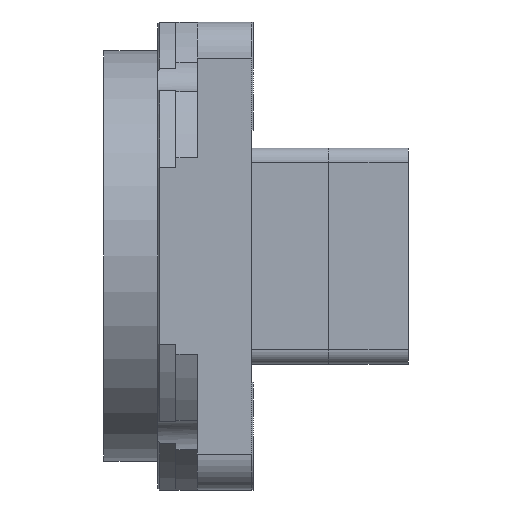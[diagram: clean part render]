
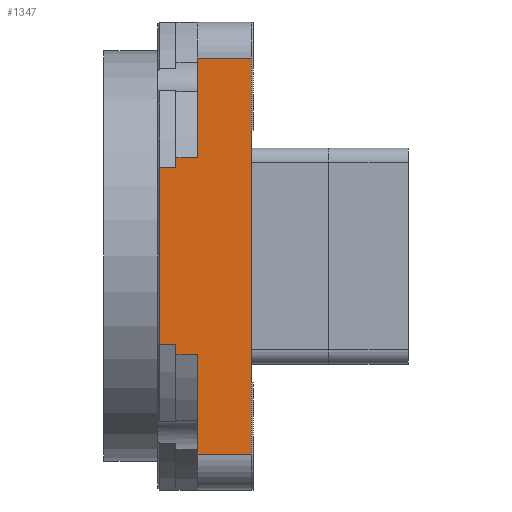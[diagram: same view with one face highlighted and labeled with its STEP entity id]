
A CAD part, left-side view. The second image highlights one B-rep face of the part: STEP entity #1347.
In plain terms, the highlighted planar face has unit normal (-1, 0, 0).
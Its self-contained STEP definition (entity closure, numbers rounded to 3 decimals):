
#13 = DIRECTION ( 'NONE',  ( 0., 1., 0. ) ) ;
#64 = ORIENTED_EDGE ( 'NONE', *, *, #3310, .F. ) ;
#222 = CARTESIAN_POINT ( 'NONE',  ( -65., 15., -55. ) ) ;
#322 = CARTESIAN_POINT ( 'NONE',  ( -65., 0., -55. ) ) ;
#460 = ORIENTED_EDGE ( 'NONE', *, *, #3645, .F. ) ;
#639 = CARTESIAN_POINT ( 'NONE',  ( -65., 21., 24.602 ) ) ;
#817 = DIRECTION ( 'NONE',  ( 0., 0., -1. ) ) ;
#917 = CARTESIAN_POINT ( 'NONE',  ( -65., 15., -55. ) ) ;
#1073 = CARTESIAN_POINT ( 'NONE',  ( -65., 21., -24.602 ) ) ;
#1109 = CARTESIAN_POINT ( 'NONE',  ( -65., 15., -55. ) ) ;
#1347 = ADVANCED_FACE ( 'NONE', ( #3621 ), #7808, .F. ) ;
#1399 = CARTESIAN_POINT ( 'NONE',  ( -65., 0., 55. ) ) ;
#1433 = VECTOR ( 'NONE', #5056, 1000. ) ;
#1495 = CARTESIAN_POINT ( 'NONE',  ( -65., 21., -55. ) ) ;
#1554 = LINE ( 'NONE', #1495, #5490 ) ;
#1595 = DIRECTION ( 'NONE',  ( 0., -1., 0. ) ) ;
#1599 = DIRECTION ( 'NONE',  ( 0., -1., 0. ) ) ;
#1608 = VECTOR ( 'NONE', #817, 1000. ) ;
#1690 = ORIENTED_EDGE ( 'NONE', *, *, #8685, .F. ) ;
#2034 = EDGE_CURVE ( 'NONE', #8337, #6546, #6655, .T. ) ;
#2048 = EDGE_CURVE ( 'NONE', #8536, #7189, #5816, .T. ) ;
#2397 = LINE ( 'NONE', #6736, #7103 ) ;
#2657 = VECTOR ( 'NONE', #7953, 1000. ) ;
#2700 = EDGE_CURVE ( 'NONE', #7189, #9798, #6309, .T. ) ;
#2712 = CARTESIAN_POINT ( 'NONE',  ( -65., 21., -24.602 ) ) ;
#2756 = ORIENTED_EDGE ( 'NONE', *, *, #3332, .T. ) ;
#2916 = DIRECTION ( 'NONE',  ( 0., 0., 1. ) ) ;
#2984 = VECTOR ( 'NONE', #7832, 1000. ) ;
#3281 = LINE ( 'NONE', #10819, #1433 ) ;
#3310 = EDGE_CURVE ( 'NONE', #8544, #9798, #3281, .T. ) ;
#3332 = EDGE_CURVE ( 'NONE', #7596, #10529, #2397, .T. ) ;
#3555 = LINE ( 'NONE', #1109, #9360 ) ;
#3621 = FACE_OUTER_BOUND ( 'NONE', #6445, .T. ) ;
#3622 = EDGE_CURVE ( 'NONE', #6103, #5869, #4661, .T. ) ;
#3645 = EDGE_CURVE ( 'NONE', #7596, #9706, #1554, .T. ) ;
#3646 = CARTESIAN_POINT ( 'NONE',  ( -65., 15., -55. ) ) ;
#3991 = VECTOR ( 'NONE', #2916, 1000. ) ;
#4114 = DIRECTION ( 'NONE',  ( 0., -1., 0. ) ) ;
#4144 = CARTESIAN_POINT ( 'NONE',  ( -65., 15., -55. ) ) ;
#4195 = CARTESIAN_POINT ( 'NONE',  ( -65., 25.5, -24.602 ) ) ;
#4240 = CARTESIAN_POINT ( 'NONE',  ( -65., 15., 27.299 ) ) ;
#4255 = DIRECTION ( 'NONE',  ( 0., 1., 0. ) ) ;
#4271 = VERTEX_POINT ( 'NONE', #10400 ) ;
#4334 = ORIENTED_EDGE ( 'NONE', *, *, #2700, .T. ) ;
#4555 = CARTESIAN_POINT ( 'NONE',  ( -65., 26., 27.299 ) ) ;
#4661 = LINE ( 'NONE', #4555, #2657 ) ;
#4943 = LINE ( 'NONE', #3646, #2984 ) ;
#4995 = DIRECTION ( 'NONE',  ( 0., 0., 1. ) ) ;
#5056 = DIRECTION ( 'NONE',  ( 0., -1., 0. ) ) ;
#5216 = EDGE_CURVE ( 'NONE', #8337, #4271, #8441, .T. ) ;
#5234 = CARTESIAN_POINT ( 'NONE',  ( -65., 25.5, 24.602 ) ) ;
#5238 = ORIENTED_EDGE ( 'NONE', *, *, #3622, .F. ) ;
#5444 = EDGE_CURVE ( 'NONE', #9706, #6546, #8501, .T. ) ;
#5490 = VECTOR ( 'NONE', #4995, 1000. ) ;
#5816 = LINE ( 'NONE', #4144, #8359 ) ;
#5869 = VERTEX_POINT ( 'NONE', #4240 ) ;
#6103 = VERTEX_POINT ( 'NONE', #6550 ) ;
#6305 = LINE ( 'NONE', #7025, #7770 ) ;
#6309 = LINE ( 'NONE', #6467, #3991 ) ;
#6420 = ORIENTED_EDGE ( 'NONE', *, *, #8064, .F. ) ;
#6445 = EDGE_LOOP ( 'NONE', ( #4334, #64, #1690, #5238, #6420, #7086, #9219, #8423, #460, #2756, #10371, #8879 ) ) ;
#6467 = CARTESIAN_POINT ( 'NONE',  ( -65., 0., -55. ) ) ;
#6546 = VERTEX_POINT ( 'NONE', #4195 ) ;
#6550 = CARTESIAN_POINT ( 'NONE',  ( -65., 21., 27.299 ) ) ;
#6655 = LINE ( 'NONE', #7542, #1608 ) ;
#6736 = CARTESIAN_POINT ( 'NONE',  ( -65., 26., -27.299 ) ) ;
#7018 = DIRECTION ( 'NONE',  ( 1., 0., 0. ) ) ;
#7025 = CARTESIAN_POINT ( 'NONE',  ( -65., 21., -55. ) ) ;
#7086 = ORIENTED_EDGE ( 'NONE', *, *, #5216, .F. ) ;
#7103 = VECTOR ( 'NONE', #4114, 1000. ) ;
#7189 = VERTEX_POINT ( 'NONE', #322 ) ;
#7542 = CARTESIAN_POINT ( 'NONE',  ( -65., 25.5, -24.602 ) ) ;
#7596 = VERTEX_POINT ( 'NONE', #9777 ) ;
#7770 = VECTOR ( 'NONE', #9708, 1000. ) ;
#7808 = PLANE ( 'NONE',  #8905 ) ;
#7814 = VECTOR ( 'NONE', #1595, 1000. ) ;
#7832 = DIRECTION ( 'NONE',  ( 0., 0., 1. ) ) ;
#7953 = DIRECTION ( 'NONE',  ( 0., -1., 0. ) ) ;
#8064 = EDGE_CURVE ( 'NONE', #4271, #6103, #6305, .T. ) ;
#8337 = VERTEX_POINT ( 'NONE', #5234 ) ;
#8359 = VECTOR ( 'NONE', #1599, 1000. ) ;
#8423 = ORIENTED_EDGE ( 'NONE', *, *, #5444, .F. ) ;
#8441 = LINE ( 'NONE', #639, #7814 ) ;
#8501 = LINE ( 'NONE', #2712, #9064 ) ;
#8536 = VERTEX_POINT ( 'NONE', #222 ) ;
#8544 = VERTEX_POINT ( 'NONE', #10660 ) ;
#8685 = EDGE_CURVE ( 'NONE', #5869, #8544, #4943, .T. ) ;
#8879 = ORIENTED_EDGE ( 'NONE', *, *, #2048, .T. ) ;
#8905 = AXIS2_PLACEMENT_3D ( 'NONE', #917, #7018, #13 ) ;
#9064 = VECTOR ( 'NONE', #4255, 1000. ) ;
#9219 = ORIENTED_EDGE ( 'NONE', *, *, #2034, .T. ) ;
#9360 = VECTOR ( 'NONE', #9469, 1000. ) ;
#9469 = DIRECTION ( 'NONE',  ( 0., 0., 1. ) ) ;
#9690 = CARTESIAN_POINT ( 'NONE',  ( -65., 15., -27.299 ) ) ;
#9706 = VERTEX_POINT ( 'NONE', #1073 ) ;
#9708 = DIRECTION ( 'NONE',  ( 0., 0., 1. ) ) ;
#9777 = CARTESIAN_POINT ( 'NONE',  ( -65., 21., -27.299 ) ) ;
#9798 = VERTEX_POINT ( 'NONE', #1399 ) ;
#10371 = ORIENTED_EDGE ( 'NONE', *, *, #10892, .F. ) ;
#10400 = CARTESIAN_POINT ( 'NONE',  ( -65., 21., 24.602 ) ) ;
#10529 = VERTEX_POINT ( 'NONE', #9690 ) ;
#10660 = CARTESIAN_POINT ( 'NONE',  ( -65., 15., 55. ) ) ;
#10819 = CARTESIAN_POINT ( 'NONE',  ( -65., 15., 55. ) ) ;
#10892 = EDGE_CURVE ( 'NONE', #8536, #10529, #3555, .T. ) ;
